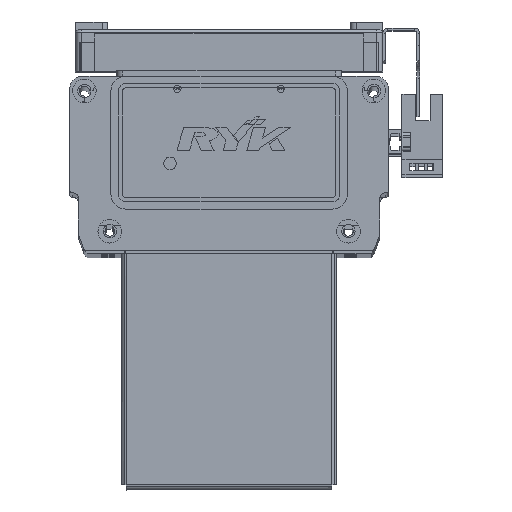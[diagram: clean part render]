
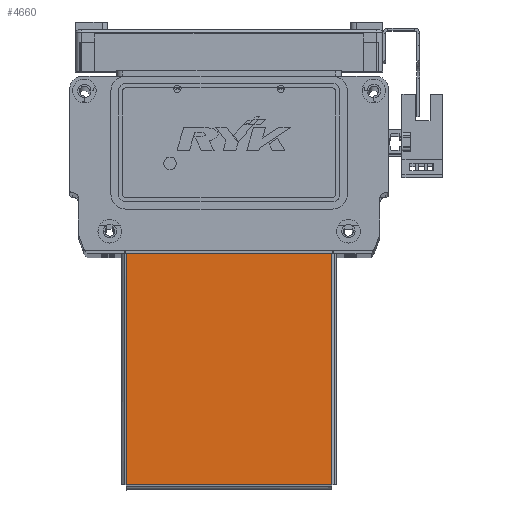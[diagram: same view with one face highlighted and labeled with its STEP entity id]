
A CAD part, top view. The second image highlights one B-rep face of the part: STEP entity #4660.
In plain terms, the highlighted planar face has unit normal (0, 0, 1) as drawn and (0, 1, 0) by its records, which use the part's own axes.
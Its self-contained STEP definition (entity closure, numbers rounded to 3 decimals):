
#1130 = FACE_OUTER_BOUND ( 'NONE', #44464, .T. ) ;
#4660 = ADVANCED_FACE ( 'NONE', ( #1130 ), #30975, .T. ) ;
#8910 = CARTESIAN_POINT ( 'NONE',  ( -34.793, 0., 38.763 ) ) ;
#8919 = DIRECTION ( 'NONE',  ( 1., 0., 0. ) ) ;
#8937 = CARTESIAN_POINT ( 'NONE',  ( -34.763, 0., -39.5 ) ) ;
#8948 = DIRECTION ( 'NONE',  ( 0., 0., 1. ) ) ;
#8954 = DIRECTION ( 'NONE',  ( -1., 0., 0. ) ) ;
#8970 = CARTESIAN_POINT ( 'NONE',  ( -35.5, 0., -39.5 ) ) ;
#9117 = DIRECTION ( 'NONE',  ( 0., 0., -1. ) ) ;
#9149 = CARTESIAN_POINT ( 'NONE',  ( 34.763, 0., 38.793 ) ) ;
#9373 = EDGE_CURVE ( 'NONE', #56851, #56826, #14725, .T. ) ;
#9387 = EDGE_CURVE ( 'NONE', #56826, #56871, #14688, .T. ) ;
#9414 = EDGE_CURVE ( 'NONE', #56833, #56851, #14761, .T. ) ;
#9499 = EDGE_CURVE ( 'NONE', #56871, #56833, #14825, .T. ) ;
#14688 = LINE ( 'NONE', #8910, #14701 ) ;
#14701 = VECTOR ( 'NONE', #8919, 1000. ) ;
#14725 = LINE ( 'NONE', #8937, #14726 ) ;
#14726 = VECTOR ( 'NONE', #8948, 1000. ) ;
#14741 = VECTOR ( 'NONE', #8954, 1000. ) ;
#14761 = LINE ( 'NONE', #8970, #14741 ) ;
#14805 = VECTOR ( 'NONE', #9117, 1000. ) ;
#14825 = LINE ( 'NONE', #9149, #14805 ) ;
#17943 = ORIENTED_EDGE ( 'NONE', *, *, #9373, .T. ) ;
#17956 = ORIENTED_EDGE ( 'NONE', *, *, #9387, .T. ) ;
#19192 = ORIENTED_EDGE ( 'NONE', *, *, #9499, .T. ) ;
#19205 = ORIENTED_EDGE ( 'NONE', *, *, #9414, .T. ) ;
#23513 = AXIS2_PLACEMENT_3D ( 'NONE', #30974, #30937, #30930 ) ;
#30930 = DIRECTION ( 'NONE',  ( 0., 0., 1. ) ) ;
#30937 = DIRECTION ( 'NONE',  ( 0., 1., 0. ) ) ;
#30974 = CARTESIAN_POINT ( 'NONE',  ( 0., 0., 0. ) ) ;
#30975 = PLANE ( 'NONE',  #23513 ) ;
#44464 = EDGE_LOOP ( 'NONE', ( #17943, #17956, #19192, #19205 ) ) ;
#48953 = CARTESIAN_POINT ( 'NONE',  ( -34.763, 0., 38.763 ) ) ;
#49018 = CARTESIAN_POINT ( 'NONE',  ( -34.763, 0., -39.5 ) ) ;
#49049 = CARTESIAN_POINT ( 'NONE',  ( 34.763, 0., -39.5 ) ) ;
#49051 = CARTESIAN_POINT ( 'NONE',  ( 34.763, 0., 38.763 ) ) ;
#56826 = VERTEX_POINT ( 'NONE', #48953 ) ;
#56833 = VERTEX_POINT ( 'NONE', #49049 ) ;
#56851 = VERTEX_POINT ( 'NONE', #49018 ) ;
#56871 = VERTEX_POINT ( 'NONE', #49051 ) ;
